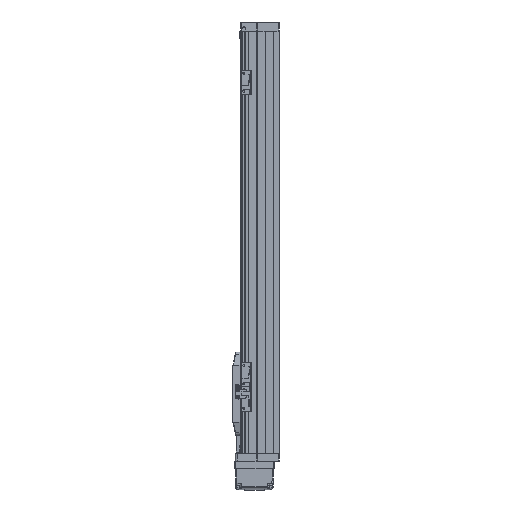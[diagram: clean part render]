
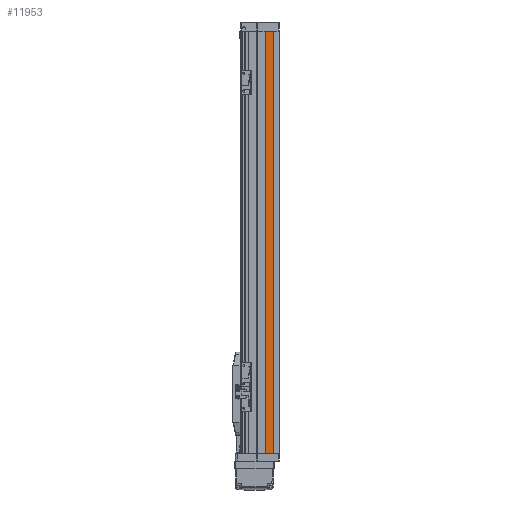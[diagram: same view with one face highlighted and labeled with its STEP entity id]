
A CAD part, left-side view. The second image highlights one B-rep face of the part: STEP entity #11953.
In plain terms, the highlighted planar face has unit normal (-1, 0, 0).
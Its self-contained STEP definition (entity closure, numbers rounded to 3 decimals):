
#1094 = CARTESIAN_POINT ( 'NONE',  ( -27.653, -4.804, 0. ) ) ;
#1625 = AXIS2_PLACEMENT_3D ( 'NONE', #5625, #13358, #33452 ) ;
#1954 = VECTOR ( 'NONE', #40202, 1000. ) ;
#3983 = LINE ( 'NONE', #29948, #7771 ) ;
#5438 = EDGE_LOOP ( 'NONE', ( #12470, #35437, #30092, #47590 ) ) ;
#5625 = CARTESIAN_POINT ( 'NONE',  ( -27.653, -4.804, 690. ) ) ;
#7292 = EDGE_CURVE ( 'NONE', #50602, #40417, #12032, .T. ) ;
#7771 = VECTOR ( 'NONE', #22211, 1000. ) ;
#8984 = CARTESIAN_POINT ( 'NONE',  ( -27.653, -4.804, 690. ) ) ;
#11953 = ADVANCED_FACE ( 'NONE', ( #44555 ), #41898, .F. ) ;
#12032 = LINE ( 'NONE', #16225, #1954 ) ;
#12470 = ORIENTED_EDGE ( 'NONE', *, *, #17317, .T. ) ;
#13358 = DIRECTION ( 'NONE',  ( 1., 0., 0. ) ) ;
#14451 = CARTESIAN_POINT ( 'NONE',  ( -27.653, -16.804, 690. ) ) ;
#16225 = CARTESIAN_POINT ( 'NONE',  ( -27.653, -16.804, 690. ) ) ;
#17317 = EDGE_CURVE ( 'NONE', #28677, #40417, #20915, .T. ) ;
#20544 = CARTESIAN_POINT ( 'NONE',  ( -27.653, -16.804, 0. ) ) ;
#20915 = LINE ( 'NONE', #27349, #47345 ) ;
#22132 = CARTESIAN_POINT ( 'NONE',  ( -27.653, -4.804, 690. ) ) ;
#22211 = DIRECTION ( 'NONE',  ( 0., -1., 0. ) ) ;
#24914 = VECTOR ( 'NONE', #34637, 1000. ) ;
#25442 = EDGE_CURVE ( 'NONE', #43154, #50602, #3983, .T. ) ;
#27006 = DIRECTION ( 'NONE',  ( 0., -1., 0. ) ) ;
#27349 = CARTESIAN_POINT ( 'NONE',  ( -27.653, -4.804, 0. ) ) ;
#28677 = VERTEX_POINT ( 'NONE', #1094 ) ;
#29948 = CARTESIAN_POINT ( 'NONE',  ( -27.653, -4.804, 690. ) ) ;
#30092 = ORIENTED_EDGE ( 'NONE', *, *, #25442, .F. ) ;
#33073 = LINE ( 'NONE', #22132, #24914 ) ;
#33452 = DIRECTION ( 'NONE',  ( 0., 1., 0. ) ) ;
#34637 = DIRECTION ( 'NONE',  ( 0., 0., -1. ) ) ;
#35437 = ORIENTED_EDGE ( 'NONE', *, *, #7292, .F. ) ;
#37099 = EDGE_CURVE ( 'NONE', #43154, #28677, #33073, .T. ) ;
#40202 = DIRECTION ( 'NONE',  ( 0., 0., -1. ) ) ;
#40417 = VERTEX_POINT ( 'NONE', #20544 ) ;
#41898 = PLANE ( 'NONE',  #1625 ) ;
#43154 = VERTEX_POINT ( 'NONE', #8984 ) ;
#44555 = FACE_OUTER_BOUND ( 'NONE', #5438, .T. ) ;
#47345 = VECTOR ( 'NONE', #27006, 1000. ) ;
#47590 = ORIENTED_EDGE ( 'NONE', *, *, #37099, .T. ) ;
#50602 = VERTEX_POINT ( 'NONE', #14451 ) ;
